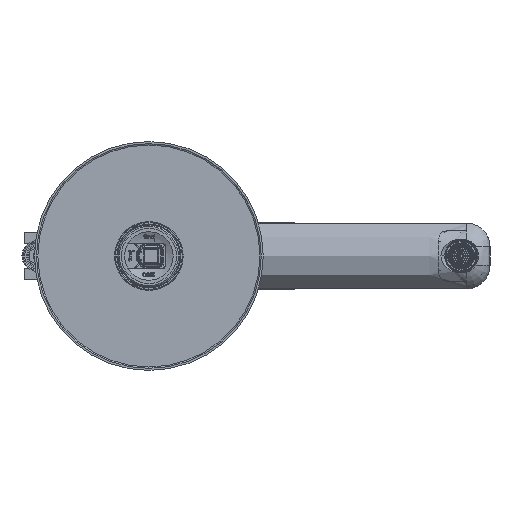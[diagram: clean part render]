
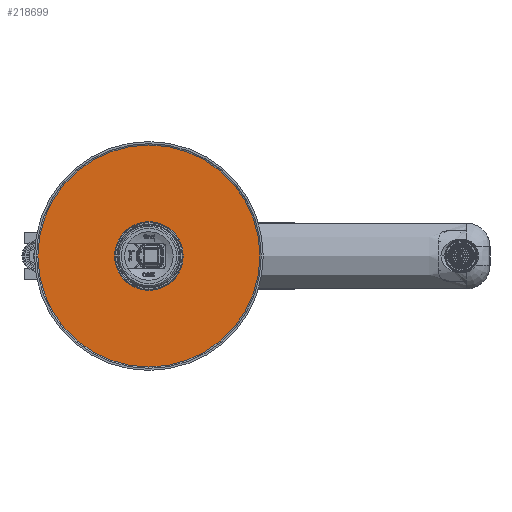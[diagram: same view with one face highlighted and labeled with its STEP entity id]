
A CAD part, front view. The second image highlights one B-rep face of the part: STEP entity #218699.
In plain terms, the highlighted planar face has unit normal (0, -1, 0).
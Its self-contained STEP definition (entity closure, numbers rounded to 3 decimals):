
#218516=CARTESIAN_POINT('',(0.,45.,0.));
#218517=DIRECTION('',(0.,1.,0.));
#218518=DIRECTION('',(0.,0.,1.));
#218519=AXIS2_PLACEMENT_3D('',#218516,#218517,#218518);
#218521=CARTESIAN_POINT('',(0.,45.,0.));
#218522=DIRECTION('',(0.,1.,0.));
#218523=DIRECTION('',(0.,0.,-1.));
#218524=AXIS2_PLACEMENT_3D('',#218521,#218522,#218523);
#218617=CARTESIAN_POINT('',(0.,45.,0.));
#218618=DIRECTION('',(0.,1.,0.));
#218619=DIRECTION('',(0.,0.,1.));
#218620=AXIS2_PLACEMENT_3D('',#218617,#218618,#218619);
#218626=CARTESIAN_POINT('',(0.,45.,0.));
#218627=DIRECTION('',(0.,1.,0.));
#218628=DIRECTION('',(0.,0.,-1.));
#218629=AXIS2_PLACEMENT_3D('',#218626,#218627,#218628);
#218647=CARTESIAN_POINT('',(0.,45.,25.5));
#218648=CARTESIAN_POINT('',(0.,45.,-25.5));
#218649=VERTEX_POINT('',#218647);
#218650=VERTEX_POINT('',#218648);
#218659=CARTESIAN_POINT('',(0.,45.,82.5));
#218660=CARTESIAN_POINT('',(0.,45.,-82.5));
#218661=VERTEX_POINT('',#218659);
#218662=VERTEX_POINT('',#218660);
#218683=CARTESIAN_POINT('',(0.,45.,0.));
#218684=DIRECTION('',(0.,1.,0.));
#218685=DIRECTION('',(0.,0.,-1.));
#218686=AXIS2_PLACEMENT_3D('',#218683,#218684,#218685);
#218687=PLANE('',#218686);
#218688=ORIENTED_EDGE('',*,*,#218672,.T.);
#218690=ORIENTED_EDGE('',*,*,#218689,.T.);
#218691=EDGE_LOOP('',(#218688,#218690));
#218692=FACE_OUTER_BOUND('',#218691,.F.);
#218694=ORIENTED_EDGE('',*,*,#218693,.F.);
#218696=ORIENTED_EDGE('',*,*,#218695,.F.);
#218697=EDGE_LOOP('',(#218694,#218696));
#218698=FACE_BOUND('',#218697,.F.);
#218699=ADVANCED_FACE('',(#218692,#218698),#218687,.F.);
#218520=CIRCLE('',#218519,82.5);
#218525=CIRCLE('',#218524,82.5);
#218621=CIRCLE('',#218620,25.5);
#218630=CIRCLE('',#218629,25.5);
#218672=EDGE_CURVE('',#218661,#218662,#218520,.T.);
#218689=EDGE_CURVE('',#218662,#218661,#218525,.T.);
#218693=EDGE_CURVE('',#218649,#218650,#218621,.T.);
#218695=EDGE_CURVE('',#218650,#218649,#218630,.T.);
